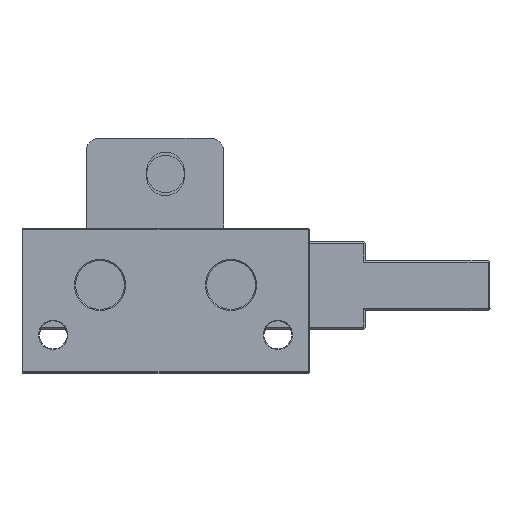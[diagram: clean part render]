
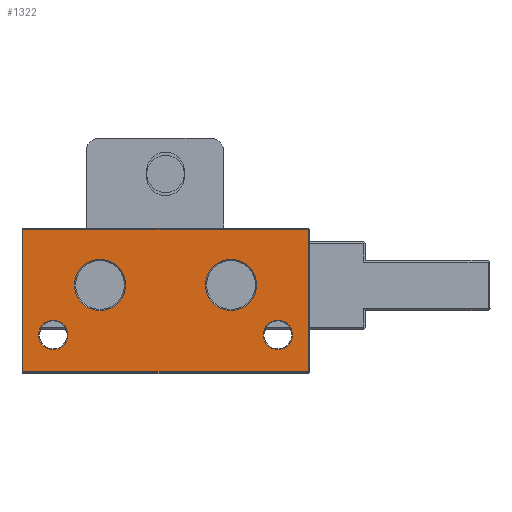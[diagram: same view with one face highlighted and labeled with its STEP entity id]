
A CAD part, top view. The second image highlights one B-rep face of the part: STEP entity #1322.
In plain terms, the highlighted planar face has unit normal (0, 0, 1).
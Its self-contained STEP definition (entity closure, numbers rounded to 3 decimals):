
#405 = EDGE_CURVE ( 'NONE', #4976, #9971, #12406, .T. ) ;
#490 = ORIENTED_EDGE ( 'NONE', *, *, #12096, .T. ) ;
#497 = DIRECTION ( 'NONE',  ( 0., 0., -1. ) ) ;
#559 = EDGE_CURVE ( 'NONE', #12520, #16336, #7197, .T. ) ;
#575 = ORIENTED_EDGE ( 'NONE', *, *, #405, .T. ) ;
#604 = EDGE_CURVE ( 'NONE', #14654, #11628, #16507, .T. ) ;
#653 = DIRECTION ( 'NONE',  ( -1., 0., 0. ) ) ;
#897 = DIRECTION ( 'NONE',  ( -1., 0., 0. ) ) ;
#934 = DIRECTION ( 'NONE',  ( 0., -1., 0. ) ) ;
#1077 = ORIENTED_EDGE ( 'NONE', *, *, #11814, .T. ) ;
#1128 = DIRECTION ( 'NONE',  ( -1., 0., 0. ) ) ;
#1279 = VERTEX_POINT ( 'NONE', #6500 ) ;
#1322 = ADVANCED_FACE ( 'NONE', ( #14054, #16697, #9622, #6152, #2609 ), #10511, .F. ) ;
#1419 = CARTESIAN_POINT ( 'NONE',  ( 22.9, 23., 120. ) ) ;
#1560 = CARTESIAN_POINT ( 'NONE',  ( 22.9, 22.9, 120. ) ) ;
#1660 = ORIENTED_EDGE ( 'NONE', *, *, #15539, .T. ) ;
#2066 = CARTESIAN_POINT ( 'NONE',  ( 23., 0.1, 120. ) ) ;
#2239 = CARTESIAN_POINT ( 'NONE',  ( -18., 6., 120. ) ) ;
#2609 = FACE_OUTER_BOUND ( 'NONE', #5266, .T. ) ;
#2713 = ORIENTED_EDGE ( 'NONE', *, *, #12575, .T. ) ;
#2805 = CARTESIAN_POINT ( 'NONE',  ( 15.65, 6., 120. ) ) ;
#2945 = ORIENTED_EDGE ( 'NONE', *, *, #604, .T. ) ;
#3004 = DIRECTION ( 'NONE',  ( 0., 0., -1. ) ) ;
#3254 = CARTESIAN_POINT ( 'NONE',  ( 10.5, 14., 120. ) ) ;
#3475 = VECTOR ( 'NONE', #10634, 1000. ) ;
#3895 = LINE ( 'NONE', #1419, #3475 ) ;
#4339 = LINE ( 'NONE', #8847, #7426 ) ;
#4566 = ORIENTED_EDGE ( 'NONE', *, *, #16264, .T. ) ;
#4601 = DIRECTION ( 'NONE',  ( -1., 0., 0. ) ) ;
#4842 = AXIS2_PLACEMENT_3D ( 'NONE', #2239, #10131, #897 ) ;
#4976 = VERTEX_POINT ( 'NONE', #2805 ) ;
#5153 = CIRCLE ( 'NONE', #14196, 4.1 ) ;
#5252 = EDGE_LOOP ( 'NONE', ( #15973, #490 ) ) ;
#5266 = EDGE_LOOP ( 'NONE', ( #12554, #11885, #2945, #1077 ) ) ;
#5311 = CARTESIAN_POINT ( 'NONE',  ( -23., 0., 120. ) ) ;
#5333 = CIRCLE ( 'NONE', #14128, 2.35 ) ;
#5487 = CARTESIAN_POINT ( 'NONE',  ( -22.9, 0.1, 120. ) ) ;
#6152 = FACE_BOUND ( 'NONE', #10576, .T. ) ;
#6279 = AXIS2_PLACEMENT_3D ( 'NONE', #16979, #9034, #1128 ) ;
#6281 = EDGE_LOOP ( 'NONE', ( #2713, #16159 ) ) ;
#6343 = CIRCLE ( 'NONE', #12867, 4.1 ) ;
#6500 = CARTESIAN_POINT ( 'NONE',  ( -6.4, 14., 120. ) ) ;
#6621 = DIRECTION ( 'NONE',  ( -1., 0., 0. ) ) ;
#6765 = CIRCLE ( 'NONE', #6279, 4.1 ) ;
#7008 = DIRECTION ( 'NONE',  ( 0., 0., -1. ) ) ;
#7197 = CIRCLE ( 'NONE', #4842, 2.35 ) ;
#7245 = DIRECTION ( 'NONE',  ( 0., 0., -1. ) ) ;
#7426 = VECTOR ( 'NONE', #934, 1000. ) ;
#7465 = CARTESIAN_POINT ( 'NONE',  ( -22.9, 22.9, 120. ) ) ;
#7851 = DIRECTION ( 'NONE',  ( 0., 0., -1. ) ) ;
#8167 = DIRECTION ( 'NONE',  ( -1., 0., 0. ) ) ;
#8232 = AXIS2_PLACEMENT_3D ( 'NONE', #5311, #14571, #6621 ) ;
#8288 = AXIS2_PLACEMENT_3D ( 'NONE', #15809, #7851, #17144 ) ;
#8304 = VERTEX_POINT ( 'NONE', #1560 ) ;
#8438 = CARTESIAN_POINT ( 'NONE',  ( -10.5, 14., 120. ) ) ;
#8481 = VERTEX_POINT ( 'NONE', #9940 ) ;
#8593 = EDGE_CURVE ( 'NONE', #10553, #14654, #4339, .T. ) ;
#8744 = CARTESIAN_POINT ( 'NONE',  ( 22.9, 0.1, 120. ) ) ;
#8847 = CARTESIAN_POINT ( 'NONE',  ( -22.9, 0., 120. ) ) ;
#9034 = DIRECTION ( 'NONE',  ( 0., 0., -1. ) ) ;
#9410 = CIRCLE ( 'NONE', #10265, 4.1 ) ;
#9622 = FACE_BOUND ( 'NONE', #11612, .T. ) ;
#9759 = DIRECTION ( 'NONE',  ( -1., 0., 0. ) ) ;
#9940 = CARTESIAN_POINT ( 'NONE',  ( 14.6, 14., 120. ) ) ;
#9971 = VERTEX_POINT ( 'NONE', #15485 ) ;
#10131 = DIRECTION ( 'NONE',  ( 0., 0., -1. ) ) ;
#10265 = AXIS2_PLACEMENT_3D ( 'NONE', #15190, #7245, #16499 ) ;
#10485 = LINE ( 'NONE', #16131, #17153 ) ;
#10504 = CARTESIAN_POINT ( 'NONE',  ( -14.6, 14., 120. ) ) ;
#10511 = PLANE ( 'NONE',  #8232 ) ;
#10553 = VERTEX_POINT ( 'NONE', #7465 ) ;
#10576 = EDGE_LOOP ( 'NONE', ( #4566, #575 ) ) ;
#10610 = CARTESIAN_POINT ( 'NONE',  ( -15.65, 6., 120. ) ) ;
#10634 = DIRECTION ( 'NONE',  ( 0., 1., 0. ) ) ;
#10827 = CIRCLE ( 'NONE', #8288, 2.35 ) ;
#10901 = CARTESIAN_POINT ( 'NONE',  ( -18., 6., 120. ) ) ;
#11312 = DIRECTION ( 'NONE',  ( 1., 0., 0. ) ) ;
#11346 = EDGE_CURVE ( 'NONE', #8304, #10553, #10485, .T. ) ;
#11612 = EDGE_LOOP ( 'NONE', ( #1660, #16627 ) ) ;
#11628 = VERTEX_POINT ( 'NONE', #8744 ) ;
#11814 = EDGE_CURVE ( 'NONE', #11628, #8304, #3895, .T. ) ;
#11885 = ORIENTED_EDGE ( 'NONE', *, *, #8593, .T. ) ;
#12096 = EDGE_CURVE ( 'NONE', #16270, #1279, #6765, .T. ) ;
#12197 = CARTESIAN_POINT ( 'NONE',  ( 6.4, 14., 120. ) ) ;
#12254 = AXIS2_PLACEMENT_3D ( 'NONE', #13598, #7008, #653 ) ;
#12280 = DIRECTION ( 'NONE',  ( -1., 0., 0. ) ) ;
#12406 = CIRCLE ( 'NONE', #12254, 2.35 ) ;
#12516 = DIRECTION ( 'NONE',  ( 0., 0., -1. ) ) ;
#12520 = VERTEX_POINT ( 'NONE', #16323 ) ;
#12554 = ORIENTED_EDGE ( 'NONE', *, *, #11346, .T. ) ;
#12575 = EDGE_CURVE ( 'NONE', #8481, #14723, #5153, .T. ) ;
#12867 = AXIS2_PLACEMENT_3D ( 'NONE', #8438, #497, #9759 ) ;
#13033 = VECTOR ( 'NONE', #11312, 1000. ) ;
#13558 = EDGE_CURVE ( 'NONE', #1279, #16270, #6343, .T. ) ;
#13598 = CARTESIAN_POINT ( 'NONE',  ( 18., 6., 120. ) ) ;
#14054 = FACE_BOUND ( 'NONE', #6281, .T. ) ;
#14128 = AXIS2_PLACEMENT_3D ( 'NONE', #10901, #3004, #12280 ) ;
#14196 = AXIS2_PLACEMENT_3D ( 'NONE', #3254, #12516, #4601 ) ;
#14571 = DIRECTION ( 'NONE',  ( 0., 0., -1. ) ) ;
#14654 = VERTEX_POINT ( 'NONE', #5487 ) ;
#14723 = VERTEX_POINT ( 'NONE', #12197 ) ;
#15031 = EDGE_CURVE ( 'NONE', #14723, #8481, #9410, .T. ) ;
#15190 = CARTESIAN_POINT ( 'NONE',  ( 10.5, 14., 120. ) ) ;
#15485 = CARTESIAN_POINT ( 'NONE',  ( 20.35, 6., 120. ) ) ;
#15539 = EDGE_CURVE ( 'NONE', #16336, #12520, #5333, .T. ) ;
#15809 = CARTESIAN_POINT ( 'NONE',  ( 18., 6., 120. ) ) ;
#15973 = ORIENTED_EDGE ( 'NONE', *, *, #13558, .T. ) ;
#16131 = CARTESIAN_POINT ( 'NONE',  ( -23., 22.9, 120. ) ) ;
#16159 = ORIENTED_EDGE ( 'NONE', *, *, #15031, .T. ) ;
#16264 = EDGE_CURVE ( 'NONE', #9971, #4976, #10827, .T. ) ;
#16270 = VERTEX_POINT ( 'NONE', #10504 ) ;
#16323 = CARTESIAN_POINT ( 'NONE',  ( -20.35, 6., 120. ) ) ;
#16336 = VERTEX_POINT ( 'NONE', #10610 ) ;
#16499 = DIRECTION ( 'NONE',  ( -1., 0., 0. ) ) ;
#16507 = LINE ( 'NONE', #2066, #13033 ) ;
#16627 = ORIENTED_EDGE ( 'NONE', *, *, #559, .T. ) ;
#16697 = FACE_BOUND ( 'NONE', #5252, .T. ) ;
#16979 = CARTESIAN_POINT ( 'NONE',  ( -10.5, 14., 120. ) ) ;
#17144 = DIRECTION ( 'NONE',  ( -1., 0., 0. ) ) ;
#17153 = VECTOR ( 'NONE', #8167, 1000. ) ;
